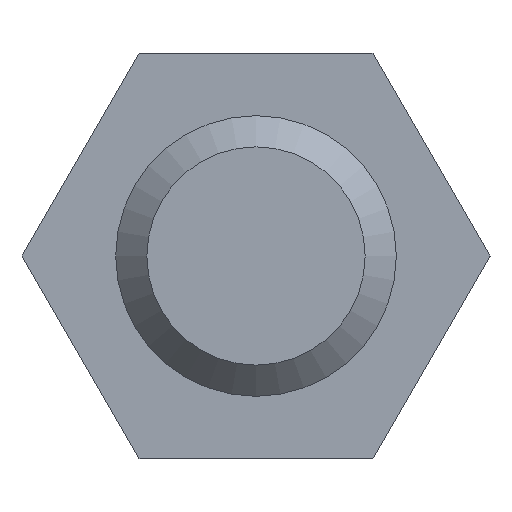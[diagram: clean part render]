
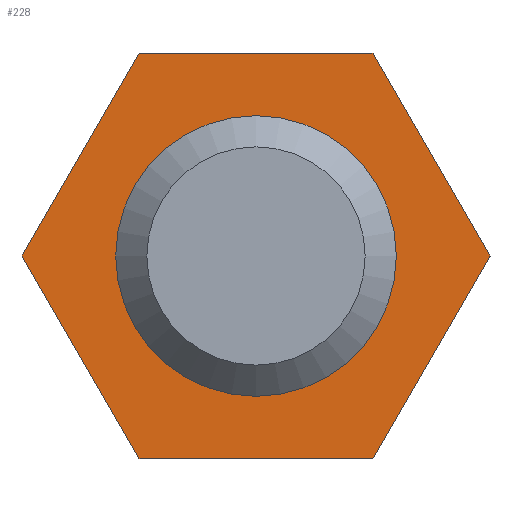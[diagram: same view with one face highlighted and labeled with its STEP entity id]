
A CAD part, left-side view. The second image highlights one B-rep face of the part: STEP entity #228.
In plain terms, the highlighted planar face has unit normal (-1, 0, 0).
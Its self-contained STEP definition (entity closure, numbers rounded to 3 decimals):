
#162=CARTESIAN_POINT('',(17.5,0.,0.));
#163=DIRECTION('',(1.0,0.0,0.0));
#164=DIRECTION('',(0.0,0.0,-1.0));
#165=AXIS2_PLACEMENT_3D('',#162,#163,#164);
#166=PLANE('',#165);
#167=CARTESIAN_POINT('',(17.5,-7.506,0.));
#168=VERTEX_POINT('',#167);
#169=CARTESIAN_POINT('',(17.5,-3.753,6.5));
#170=VERTEX_POINT('',#169);
#171=CARTESIAN_POINT('',(17.5,-7.506,0.));
#172=DIRECTION('',(0.0,0.5,0.866));
#173=VECTOR('',#172,7.506);
#174=LINE('',#171,#173);
#175=EDGE_CURVE('',#168,#170,#174,.T.);
#176=ORIENTED_EDGE('',*,*,#175,.T.);
#177=CARTESIAN_POINT('',(17.5,3.753,6.5));
#178=VERTEX_POINT('',#177);
#179=CARTESIAN_POINT('',(17.5,-3.753,6.5));
#180=DIRECTION('',(0.0,1.0,0.0));
#181=VECTOR('',#180,7.506);
#182=LINE('',#179,#181);
#183=EDGE_CURVE('',#170,#178,#182,.T.);
#184=ORIENTED_EDGE('',*,*,#183,.T.);
#185=CARTESIAN_POINT('',(17.5,7.506,0.));
#186=VERTEX_POINT('',#185);
#187=CARTESIAN_POINT('',(17.5,3.753,6.5));
#188=DIRECTION('',(0.0,0.5,-0.866));
#189=VECTOR('',#188,7.506);
#190=LINE('',#187,#189);
#191=EDGE_CURVE('',#178,#186,#190,.T.);
#192=ORIENTED_EDGE('',*,*,#191,.T.);
#193=CARTESIAN_POINT('',(17.5,3.753,-6.5));
#194=VERTEX_POINT('',#193);
#195=CARTESIAN_POINT('',(17.5,7.506,0.));
#196=DIRECTION('',(0.0,-0.5,-0.866));
#197=VECTOR('',#196,7.506);
#198=LINE('',#195,#197);
#199=EDGE_CURVE('',#186,#194,#198,.T.);
#200=ORIENTED_EDGE('',*,*,#199,.T.);
#201=CARTESIAN_POINT('',(17.5,-3.753,-6.5));
#202=VERTEX_POINT('',#201);
#203=CARTESIAN_POINT('',(17.5,3.753,-6.5));
#204=DIRECTION('',(0.0,-1.0,0.0));
#205=VECTOR('',#204,7.506);
#206=LINE('',#203,#205);
#207=EDGE_CURVE('',#194,#202,#206,.T.);
#208=ORIENTED_EDGE('',*,*,#207,.T.);
#209=CARTESIAN_POINT('',(17.5,-3.753,-6.5));
#210=DIRECTION('',(0.0,-0.5,0.866));
#211=VECTOR('',#210,7.506);
#212=LINE('',#209,#211);
#213=EDGE_CURVE('',#202,#168,#212,.T.);
#214=ORIENTED_EDGE('',*,*,#213,.T.);
#215=EDGE_LOOP('',(#176,#184,#192,#200,#208,#214));
#216=FACE_OUTER_BOUND('',#215,.T.);
#217=CARTESIAN_POINT('',(17.5,4.5,0.0));
#218=VERTEX_POINT('',#217);
#219=CARTESIAN_POINT('',(17.5,0.0,0.0));
#220=DIRECTION('',(1.0,0.0,0.0));
#221=DIRECTION('',(0.0,1.0,0.0));
#222=AXIS2_PLACEMENT_3D('',#219,#220,#221);
#223=CIRCLE('',#222,4.5);
#224=EDGE_CURVE('',#218,#218,#223,.T.);
#225=ORIENTED_EDGE('',*,*,#224,.T.);
#226=EDGE_LOOP('',(#225));
#227=FACE_BOUND('',#226,.T.);
#228=ADVANCED_FACE('',(#216,#227),#166,.F.);
